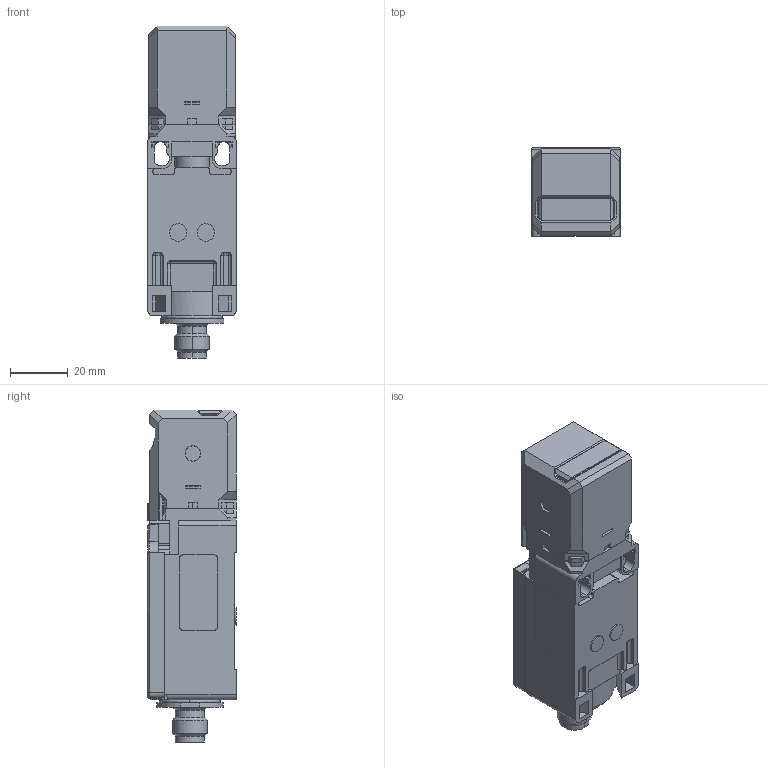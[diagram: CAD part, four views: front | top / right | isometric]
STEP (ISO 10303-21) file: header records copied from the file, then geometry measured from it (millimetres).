
FILE_DESCRIPTION((''),'2;1');
FILE_NAME('6016819179_02','2026-10-14T15:40:27',('Michael.Schnitker'),(''),'CREO PARAMETRIC BY PTC INC, 2022124','CREO PARAMETRIC BY PTC INC, 2022124','');
FILE_SCHEMA(('AUTOMOTIVE_DESIGN { 1 0 10303 214 1 1 1 1 }'));
Length unit declared in the file: millimetre
Products named in the file (1): 6016819179_02
Bounding box: 31 x 30.55 x 114.5 mm (x, y, z)
Volume: 69320.5 mm3; surface area: 26742 mm2
Topology: 1 solids, 1 shells, 1027 faces, 2865 edges, 1796 vertices
Faces by surface type: plane 641, cylinder 282, sphere 38, cone 34, torus 22, bspline 8, revolution 2
Entity records: 34020 total; most frequent: CARTESIAN_POINT 6761, ORIENTED_EDGE 5698, DIRECTION 5532, EDGE_CURVE 2849, VECTOR 2039, LINE 2039, VERTEX_POINT 1796, AXIS2_PLACEMENT_3D 1744
